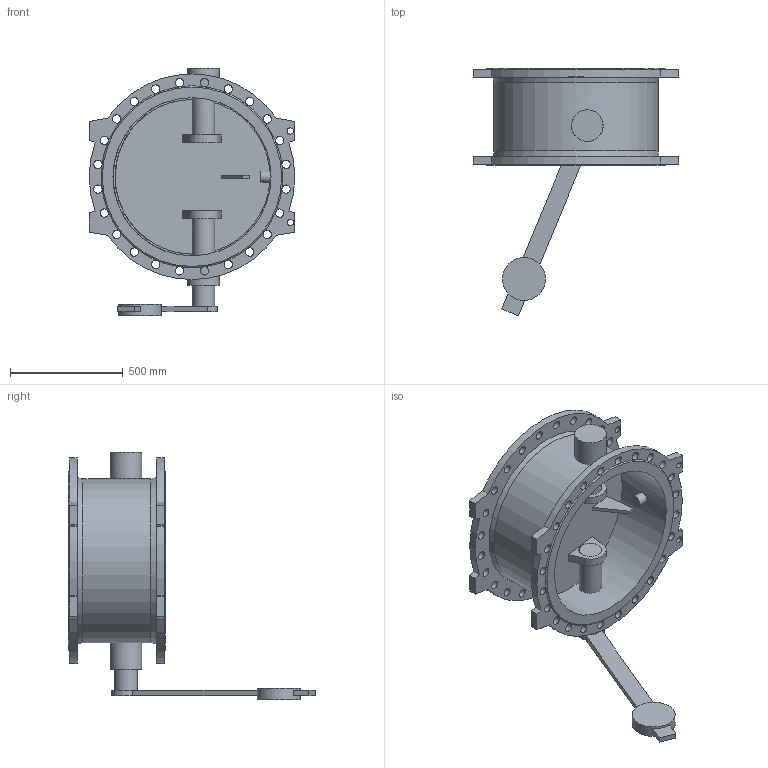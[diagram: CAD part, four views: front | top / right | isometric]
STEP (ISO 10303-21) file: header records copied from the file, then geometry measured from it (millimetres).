
FILE_DESCRIPTION(('STEP AP203'), '1');
FILE_NAME('Êëàïàí 015F.PV DN700 PN16 ñ ïðîòèâîâåñîì', '', ('UNSPECIFIED'), ('UNSPECIFIED'), 'ASCON STEP Converter 1.6', 'ASCON Math Kernel', '');
FILE_SCHEMA(('CONFIG_CONTROL_DESIGN'));
Length unit declared in the file: millimetre
Bounding box: 910 x 1095 x 1095 mm (x, y, z)
Volume: 44791227.5 mm3; surface area: 4543395.3 mm2
Topology: 1 solids, 1 shells, 144 faces, 521 edges, 346 vertices
Faces by surface type: cylinder 74, plane 63, cone 4, extrusion 2, bspline 1
Full cylindrical faces by diameter (mm): 28 x4, 37 x48, 50 x1, 100 x3, 102 x2, 140 x2, 190 x1, 700 x1, 726 x1
Entity records: 9517 total; most frequent: CARTESIAN_POINT 3861, DIRECTION 918, ORIENTED_EDGE 894, EDGE_CURVE 447, AXIS2_PLACEMENT_3D 393, VERTEX_POINT 345, EDGE_LOOP 294, CIRCLE 251
